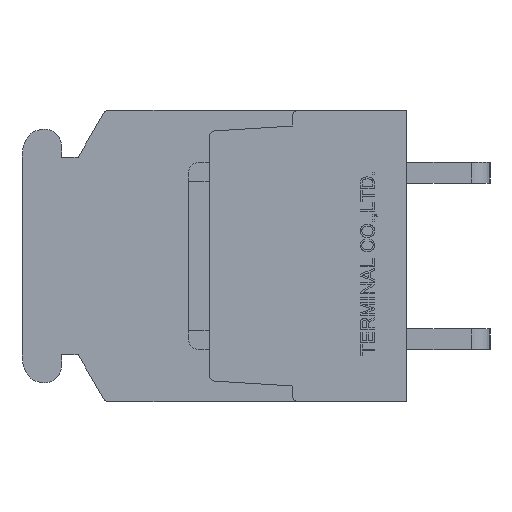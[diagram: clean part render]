
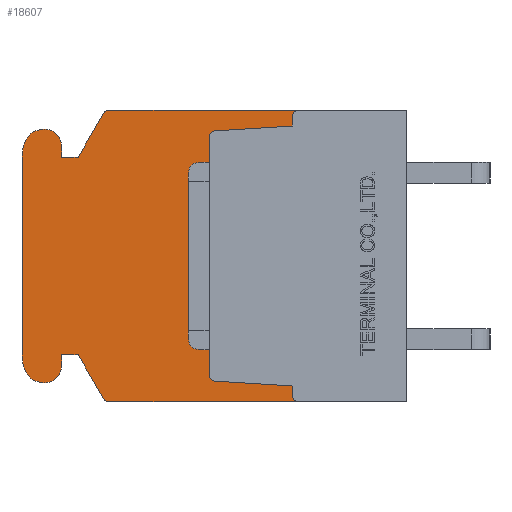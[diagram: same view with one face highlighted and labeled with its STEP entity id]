
A CAD part, left-side view. The second image highlights one B-rep face of the part: STEP entity #18607.
In plain terms, the highlighted planar face has unit normal (-1, 0, 0).
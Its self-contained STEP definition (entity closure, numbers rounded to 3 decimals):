
#953=CIRCLE('',#19968,0.3);
#954=CIRCLE('',#19969,0.3);
#955=CIRCLE('',#19970,0.3);
#956=CIRCLE('',#19971,0.3);
#957=CIRCLE('',#19972,0.3);
#958=CIRCLE('',#19973,0.8);
#959=CIRCLE('',#19974,1.);
#960=CIRCLE('',#19975,2.);
#961=CIRCLE('',#19976,2.);
#962=CIRCLE('',#19977,1.);
#963=CIRCLE('',#19978,0.8);
#964=CIRCLE('',#19979,0.3);
#1967=VERTEX_POINT('',#27374);
#1968=VERTEX_POINT('',#27375);
#1969=VERTEX_POINT('',#27377);
#1970=VERTEX_POINT('',#27379);
#1971=VERTEX_POINT('',#27381);
#1972=VERTEX_POINT('',#27383);
#1973=VERTEX_POINT('',#27385);
#1974=VERTEX_POINT('',#27387);
#1975=VERTEX_POINT('',#27389);
#1976=VERTEX_POINT('',#27391);
#1977=VERTEX_POINT('',#27393);
#1978=VERTEX_POINT('',#27395);
#1979=VERTEX_POINT('',#27397);
#1980=VERTEX_POINT('',#27399);
#1981=VERTEX_POINT('',#27401);
#1982=VERTEX_POINT('',#27403);
#1983=VERTEX_POINT('',#27405);
#1984=VERTEX_POINT('',#27407);
#1985=VERTEX_POINT('',#27409);
#1986=VERTEX_POINT('',#27411);
#1987=VERTEX_POINT('',#27413);
#1988=VERTEX_POINT('',#27415);
#1989=VERTEX_POINT('',#27417);
#1990=VERTEX_POINT('',#27419);
#1991=VERTEX_POINT('',#27421);
#1992=VERTEX_POINT('',#27423);
#1993=VERTEX_POINT('',#27425);
#1994=VERTEX_POINT('',#27427);
#3905=VECTOR('',#22662,1.);
#3906=VECTOR('',#22663,1.);
#3907=VECTOR('',#22666,1.);
#3908=VECTOR('',#22669,1.);
#3909=VECTOR('',#22670,1.);
#3910=VECTOR('',#22673,1.);
#3911=VECTOR('',#22676,1.);
#3912=VECTOR('',#22677,1.);
#3913=VECTOR('',#22678,1.);
#3914=VECTOR('',#22681,1.);
#3915=VECTOR('',#22686,1.);
#3916=VECTOR('',#22691,1.);
#3917=VECTOR('',#22694,1.);
#3918=VECTOR('',#22695,1.);
#3919=VECTOR('',#22696,1.);
#3920=VECTOR('',#22699,1.);
#6026=LINE('',#27376,#3905);
#6027=LINE('',#27378,#3906);
#6028=LINE('',#27382,#3907);
#6029=LINE('',#27386,#3908);
#6030=LINE('',#27388,#3909);
#6031=LINE('',#27392,#3910);
#6032=LINE('',#27396,#3911);
#6033=LINE('',#27398,#3912);
#6034=LINE('',#27400,#3913);
#6035=LINE('',#27404,#3914);
#6036=LINE('',#27410,#3915);
#6037=LINE('',#27416,#3916);
#6038=LINE('',#27420,#3917);
#6039=LINE('',#27422,#3918);
#6040=LINE('',#27424,#3919);
#6041=LINE('',#27428,#3920);
#8543=EDGE_CURVE('',#1967,#1968,#953,.T.);
#8544=EDGE_CURVE('',#1969,#1967,#6026,.T.);
#8545=EDGE_CURVE('',#1970,#1969,#6027,.T.);
#8546=EDGE_CURVE('',#1971,#1970,#954,.T.);
#8547=EDGE_CURVE('',#1972,#1971,#6028,.T.);
#8548=EDGE_CURVE('',#1973,#1972,#955,.T.);
#8549=EDGE_CURVE('',#1974,#1973,#6029,.T.);
#8550=EDGE_CURVE('',#1975,#1974,#6030,.T.);
#8551=EDGE_CURVE('',#1976,#1975,#956,.T.);
#8552=EDGE_CURVE('',#1977,#1976,#6031,.T.);
#8553=EDGE_CURVE('',#1978,#1977,#957,.T.);
#8554=EDGE_CURVE('',#1979,#1978,#6032,.T.);
#8555=EDGE_CURVE('',#1980,#1979,#6033,.T.);
#8556=EDGE_CURVE('',#1981,#1980,#6034,.T.);
#8557=EDGE_CURVE('',#1982,#1981,#958,.T.);
#8558=EDGE_CURVE('',#1983,#1982,#6035,.T.);
#8559=EDGE_CURVE('',#1984,#1983,#959,.T.);
#8560=EDGE_CURVE('',#1985,#1984,#960,.T.);
#8561=EDGE_CURVE('',#1986,#1985,#6036,.T.);
#8562=EDGE_CURVE('',#1987,#1986,#961,.T.);
#8563=EDGE_CURVE('',#1988,#1987,#962,.T.);
#8564=EDGE_CURVE('',#1989,#1988,#6037,.T.);
#8565=EDGE_CURVE('',#1990,#1989,#963,.T.);
#8566=EDGE_CURVE('',#1991,#1990,#6038,.T.);
#8567=EDGE_CURVE('',#1992,#1991,#6039,.T.);
#8568=EDGE_CURVE('',#1993,#1992,#6040,.T.);
#8569=EDGE_CURVE('',#1994,#1993,#964,.T.);
#8570=EDGE_CURVE('',#1968,#1994,#6041,.T.);
#12548=ORIENTED_EDGE('',*,*,#8543,.F.);
#12549=ORIENTED_EDGE('',*,*,#8544,.F.);
#12550=ORIENTED_EDGE('',*,*,#8545,.F.);
#12551=ORIENTED_EDGE('',*,*,#8546,.F.);
#12552=ORIENTED_EDGE('',*,*,#8547,.F.);
#12553=ORIENTED_EDGE('',*,*,#8548,.F.);
#12554=ORIENTED_EDGE('',*,*,#8549,.F.);
#12555=ORIENTED_EDGE('',*,*,#8550,.F.);
#12556=ORIENTED_EDGE('',*,*,#8551,.F.);
#12557=ORIENTED_EDGE('',*,*,#8552,.F.);
#12558=ORIENTED_EDGE('',*,*,#8553,.F.);
#12559=ORIENTED_EDGE('',*,*,#8554,.F.);
#12560=ORIENTED_EDGE('',*,*,#8555,.F.);
#12561=ORIENTED_EDGE('',*,*,#8556,.F.);
#12562=ORIENTED_EDGE('',*,*,#8557,.F.);
#12563=ORIENTED_EDGE('',*,*,#8558,.F.);
#12564=ORIENTED_EDGE('',*,*,#8559,.F.);
#12565=ORIENTED_EDGE('',*,*,#8560,.F.);
#12566=ORIENTED_EDGE('',*,*,#8561,.F.);
#12567=ORIENTED_EDGE('',*,*,#8562,.F.);
#12568=ORIENTED_EDGE('',*,*,#8563,.F.);
#12569=ORIENTED_EDGE('',*,*,#8564,.F.);
#12570=ORIENTED_EDGE('',*,*,#8565,.F.);
#12571=ORIENTED_EDGE('',*,*,#8566,.F.);
#12572=ORIENTED_EDGE('',*,*,#8567,.F.);
#12573=ORIENTED_EDGE('',*,*,#8568,.F.);
#12574=ORIENTED_EDGE('',*,*,#8569,.F.);
#12575=ORIENTED_EDGE('',*,*,#8570,.F.);
#16331=EDGE_LOOP('',(#12548,#12549,#12550,#12551,#12552,#12553,#12554,#12555,
#12556,#12557,#12558,#12559,#12560,#12561,#12562,#12563,#12564,#12565,#12566,
#12567,#12568,#12569,#12570,#12571,#12572,#12573,#12574,#12575));
#17495=FACE_BOUND('',#16331,.T.);
#18607=ADVANCED_FACE('',(#17495),#31686,.F.);
#19967=AXIS2_PLACEMENT_3D('',#27372,#22659,$);
#19968=AXIS2_PLACEMENT_3D('',#27373,#22660,#22661);
#19969=AXIS2_PLACEMENT_3D('',#27380,#22664,#22665);
#19970=AXIS2_PLACEMENT_3D('',#27384,#22667,#22668);
#19971=AXIS2_PLACEMENT_3D('',#27390,#22671,#22672);
#19972=AXIS2_PLACEMENT_3D('',#27394,#22674,#22675);
#19973=AXIS2_PLACEMENT_3D('',#27402,#22679,#22680);
#19974=AXIS2_PLACEMENT_3D('',#27406,#22682,#22683);
#19975=AXIS2_PLACEMENT_3D('',#27408,#22684,#22685);
#19976=AXIS2_PLACEMENT_3D('',#27412,#22687,#22688);
#19977=AXIS2_PLACEMENT_3D('',#27414,#22689,#22690);
#19978=AXIS2_PLACEMENT_3D('',#27418,#22692,#22693);
#19979=AXIS2_PLACEMENT_3D('',#27426,#22697,#22698);
#22659=DIRECTION('',(1.,0.,0.));
#22660=DIRECTION('',(-1.,0.,0.));
#22661=DIRECTION('',(0.,0.,-0.3));
#22662=DIRECTION('',(0.,0.,-1.));
#22663=DIRECTION('',(0.,-0.998,-0.062));
#22664=DIRECTION('',(-1.,0.,0.));
#22665=DIRECTION('',(0.,0.,-0.3));
#22666=DIRECTION('',(0.,0.,-1.));
#22667=DIRECTION('',(-1.,0.,0.));
#22668=DIRECTION('',(0.,0.,-0.3));
#22669=DIRECTION('',(0.,0.998,-0.062));
#22670=DIRECTION('',(0.,0.,-1.));
#22671=DIRECTION('',(-1.,0.,0.));
#22672=DIRECTION('',(0.,0.,-0.3));
#22673=DIRECTION('',(0.,-1.,0.));
#22674=DIRECTION('',(1.,0.,0.));
#22675=DIRECTION('',(0.,0.,-0.3));
#22676=DIRECTION('',(0.,-0.5,0.866));
#22677=DIRECTION('',(0.,-1.,0.));
#22678=DIRECTION('',(0.,0.,-1.));
#22679=DIRECTION('',(1.,0.,0.));
#22680=DIRECTION('',(0.,0.,-0.8));
#22681=DIRECTION('',(0.,-1.,0.));
#22682=DIRECTION('',(1.,0.,0.));
#22683=DIRECTION('',(0.,0.,-1.));
#22684=DIRECTION('',(1.,0.,0.));
#22685=DIRECTION('',(0.,0.,-2.));
#22686=DIRECTION('',(0.,0.,1.));
#22687=DIRECTION('',(1.,0.,0.));
#22688=DIRECTION('',(0.,0.,-2.));
#22689=DIRECTION('',(1.,0.,0.));
#22690=DIRECTION('',(0.,0.,-1.));
#22691=DIRECTION('',(0.,1.,0.));
#22692=DIRECTION('',(1.,0.,0.));
#22693=DIRECTION('',(0.,0.,-0.8));
#22694=DIRECTION('',(0.,0.,-1.));
#22695=DIRECTION('',(0.,1.,0.));
#22696=DIRECTION('',(0.,0.5,0.866));
#22697=DIRECTION('',(1.,0.,0.));
#22698=DIRECTION('',(0.,0.,-0.3));
#22699=DIRECTION('',(0.,1.,0.));
#27372=CARTESIAN_POINT('',(8.15,9.311,0.));
#27373=CARTESIAN_POINT('',(8.15,5.2,-6.7));
#27374=CARTESIAN_POINT('',(8.15,5.5,-6.7));
#27375=CARTESIAN_POINT('',(8.15,5.2,-7.));
#27376=CARTESIAN_POINT('',(8.15,5.5,-6.7));
#27377=CARTESIAN_POINT('',(8.15,5.5,-6.25));
#27378=CARTESIAN_POINT('',(8.15,5.5,-6.25));
#27379=CARTESIAN_POINT('',(8.15,9.219,-6.018));
#27380=CARTESIAN_POINT('',(8.15,9.2,-5.718));
#27381=CARTESIAN_POINT('',(8.15,9.5,-5.718));
#27382=CARTESIAN_POINT('',(8.15,9.5,-5.718));
#27383=CARTESIAN_POINT('',(8.15,9.5,5.718));
#27384=CARTESIAN_POINT('',(8.15,9.2,5.718));
#27385=CARTESIAN_POINT('',(8.15,9.219,6.018));
#27386=CARTESIAN_POINT('',(8.15,9.219,6.018));
#27387=CARTESIAN_POINT('',(8.15,5.5,6.25));
#27388=CARTESIAN_POINT('',(8.15,5.5,6.25));
#27389=CARTESIAN_POINT('',(8.15,5.5,6.7));
#27390=CARTESIAN_POINT('',(8.15,5.2,6.7));
#27391=CARTESIAN_POINT('',(8.15,5.2,7.));
#27392=CARTESIAN_POINT('',(8.15,14.327,7.));
#27393=CARTESIAN_POINT('',(8.15,14.327,7.));
#27394=CARTESIAN_POINT('',(8.15,14.327,6.7));
#27395=CARTESIAN_POINT('',(8.15,14.587,6.85));
#27396=CARTESIAN_POINT('',(8.15,15.8,4.75));
#27397=CARTESIAN_POINT('',(8.15,15.8,4.75));
#27398=CARTESIAN_POINT('',(8.15,16.6,4.75));
#27399=CARTESIAN_POINT('',(8.15,16.6,4.75));
#27400=CARTESIAN_POINT('',(8.15,16.6,5.3));
#27401=CARTESIAN_POINT('',(8.15,16.6,5.3));
#27402=CARTESIAN_POINT('',(8.15,17.4,5.3));
#27403=CARTESIAN_POINT('',(8.15,17.4,6.1));
#27404=CARTESIAN_POINT('',(8.15,17.437,6.1));
#27405=CARTESIAN_POINT('',(8.15,17.437,6.1));
#27406=CARTESIAN_POINT('',(8.15,17.437,5.1));
#27407=CARTESIAN_POINT('',(8.15,18.373,5.45));
#27408=CARTESIAN_POINT('',(8.15,16.5,4.75));
#27409=CARTESIAN_POINT('',(8.15,18.5,4.75));
#27410=CARTESIAN_POINT('',(8.15,18.5,-4.75));
#27411=CARTESIAN_POINT('',(8.15,18.5,-4.75));
#27412=CARTESIAN_POINT('',(8.15,16.5,-4.75));
#27413=CARTESIAN_POINT('',(8.15,18.373,-5.45));
#27414=CARTESIAN_POINT('',(8.15,17.437,-5.1));
#27415=CARTESIAN_POINT('',(8.15,17.437,-6.1));
#27416=CARTESIAN_POINT('',(8.15,17.4,-6.1));
#27417=CARTESIAN_POINT('',(8.15,17.4,-6.1));
#27418=CARTESIAN_POINT('',(8.15,17.4,-5.3));
#27419=CARTESIAN_POINT('',(8.15,16.6,-5.3));
#27420=CARTESIAN_POINT('',(8.15,16.6,-4.75));
#27421=CARTESIAN_POINT('',(8.15,16.6,-4.75));
#27422=CARTESIAN_POINT('',(8.15,15.8,-4.75));
#27423=CARTESIAN_POINT('',(8.15,15.8,-4.75));
#27424=CARTESIAN_POINT('',(8.15,14.587,-6.85));
#27425=CARTESIAN_POINT('',(8.15,14.587,-6.85));
#27426=CARTESIAN_POINT('',(8.15,14.327,-6.7));
#27427=CARTESIAN_POINT('',(8.15,14.327,-7.));
#27428=CARTESIAN_POINT('',(8.15,0.,-7.));
#31686=PLANE('',#19967);
